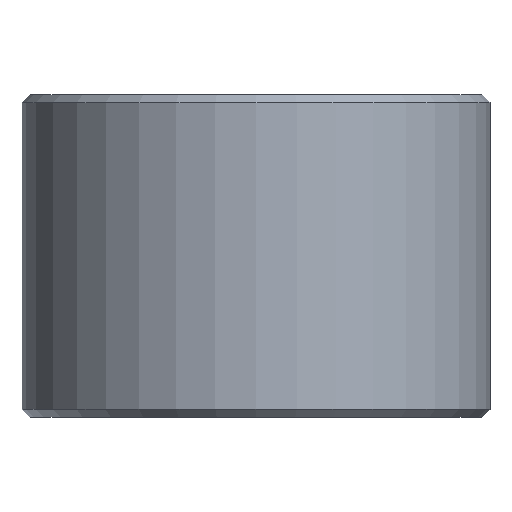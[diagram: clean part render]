
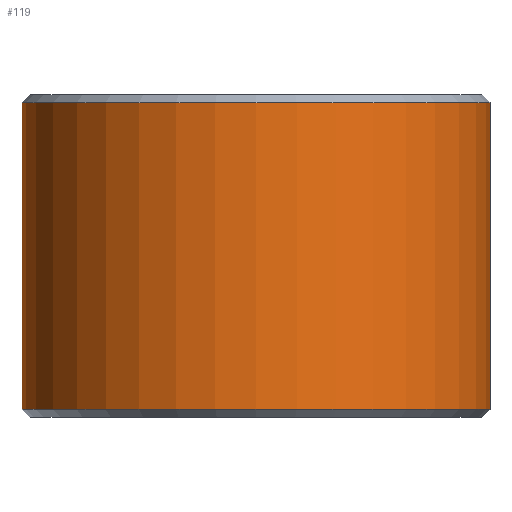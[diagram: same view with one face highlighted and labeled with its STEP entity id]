
A CAD part, front view. The second image highlights one B-rep face of the part: STEP entity #119.
In plain terms, the highlighted cylindrical face has radius 14.5 mm (diameter 29 mm), a full revolution.
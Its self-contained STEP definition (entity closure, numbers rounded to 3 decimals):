
#20=CYLINDRICAL_SURFACE('',#148,14.5);
#27=FACE_OUTER_BOUND('',#37,.T.);
#37=EDGE_LOOP('',(#101,#102,#103,#104));
#43=LINE('',#219,#49);
#49=VECTOR('',#187,14.5);
#57=CIRCLE('',#147,14.5);
#58=CIRCLE('',#149,14.5);
#65=VERTEX_POINT('',#213);
#66=VERTEX_POINT('',#217);
#77=EDGE_CURVE('',#65,#65,#57,.T.);
#78=EDGE_CURVE('',#66,#66,#58,.T.);
#79=EDGE_CURVE('',#66,#65,#43,.T.);
#101=ORIENTED_EDGE('',*,*,#78,.F.);
#102=ORIENTED_EDGE('',*,*,#79,.T.);
#103=ORIENTED_EDGE('',*,*,#77,.F.);
#104=ORIENTED_EDGE('',*,*,#79,.F.);
#119=ADVANCED_FACE('',(#27),#20,.T.);
#147=AXIS2_PLACEMENT_3D('',#215,#181,#182);
#148=AXIS2_PLACEMENT_3D('',#216,#183,#184);
#149=AXIS2_PLACEMENT_3D('',#218,#185,#186);
#181=DIRECTION('center_axis',(0.,0.,-1.));
#182=DIRECTION('ref_axis',(-1.,0.,0.));
#183=DIRECTION('center_axis',(0.,0.,1.));
#184=DIRECTION('ref_axis',(-1.,0.,0.));
#185=DIRECTION('center_axis',(0.,0.,1.));
#186=DIRECTION('ref_axis',(-1.,0.,0.));
#187=DIRECTION('',(0.,0.,-1.));
#213=CARTESIAN_POINT('',(14.5,0.,0.5));
#215=CARTESIAN_POINT('Origin',(0.,0.,0.5));
#216=CARTESIAN_POINT('Origin',(0.,0.,0.));
#217=CARTESIAN_POINT('',(14.5,0.,19.5));
#218=CARTESIAN_POINT('Origin',(0.,0.,19.5));
#219=CARTESIAN_POINT('',(14.5,0.,0.));
